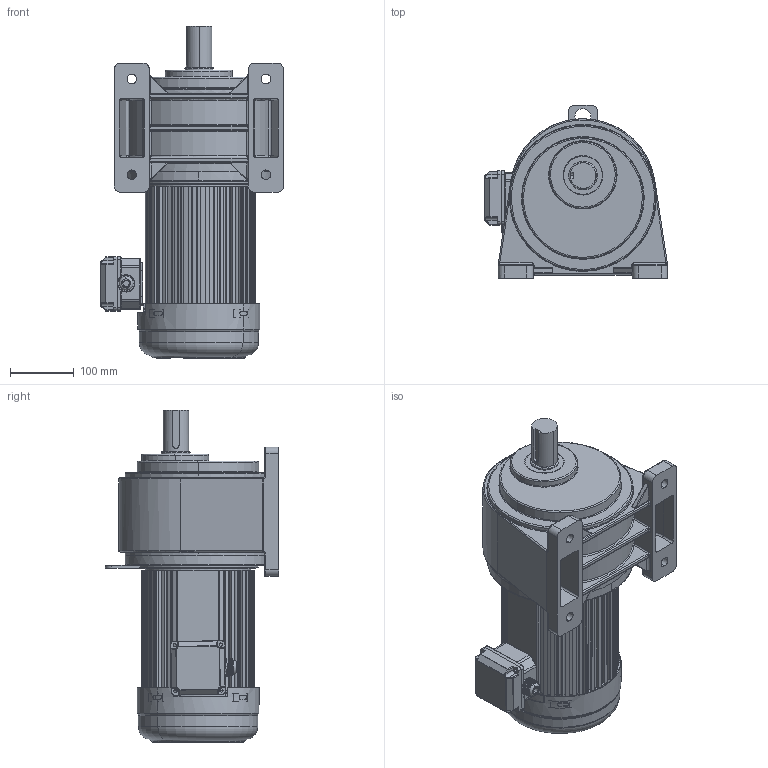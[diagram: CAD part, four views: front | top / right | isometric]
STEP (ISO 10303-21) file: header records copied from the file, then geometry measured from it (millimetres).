
FILE_DESCRIPTION (( 'STEP AP203' ), '1' );
FILE_NAME ('2200W饜5#湍价陬拏宒.STEP', '2020-04-18T01:46:01', ( 'china' ), ( 'china' ), 'SwSTEP 2.0', 'SolidWorks 2019', '' );
FILE_SCHEMA (( 'CONFIG_CONTROL_DESIGN' ));
Length unit declared in the file: millimetre
Products named in the file (10): 2200W饜5#湍价陬拏宒; 2200W儂褲; 1500W棠憤迖殤; 湍价陬諉盄碟裔; 瑞欶; 5-1500w2200wxianggai; 蜊輛綴諉盄碟釱3; 怀堤粣; 諉芛; xiangti-5w
Assembly tree (9 placements, depth 2):
  2200W饜5#湍价陬拏宒
    瑞欶
    蜊輛綴諉盄碟釱3
    諉芛
    2200W儂褲
    1500W棠憤迖殤
    湍价陬諉盄碟裔
    5-1500w2200wxianggai
    怀堤粣
    xiangti-5w
Bounding box: 286.49 x 271 x 519.98 mm (x, y, z)
Volume: 3966616.9 mm3; surface area: 1317629.1 mm2
Topology: 9 solids, 20 shells, 2996 faces, 8063 edges, 5106 vertices
Faces by surface type: plane 1183, cylinder 1149, bspline 559, torus 67, cone 26, sphere 12
Entity records: 130027 total; most frequent: CARTESIAN_POINT 56471, ORIENTED_EDGE 15992, DIRECTION 14164, EDGE_CURVE 7996, VERTEX_POINT 5105, AXIS2_PLACEMENT_3D 4979, LINE 4206, VECTOR 4206
